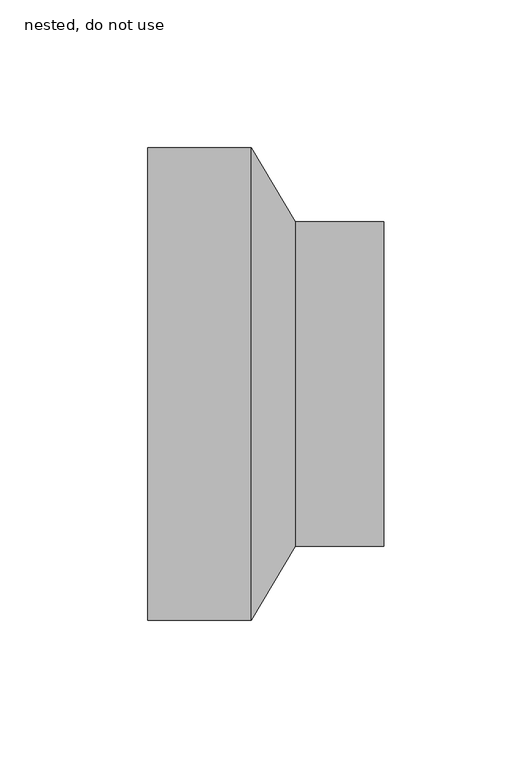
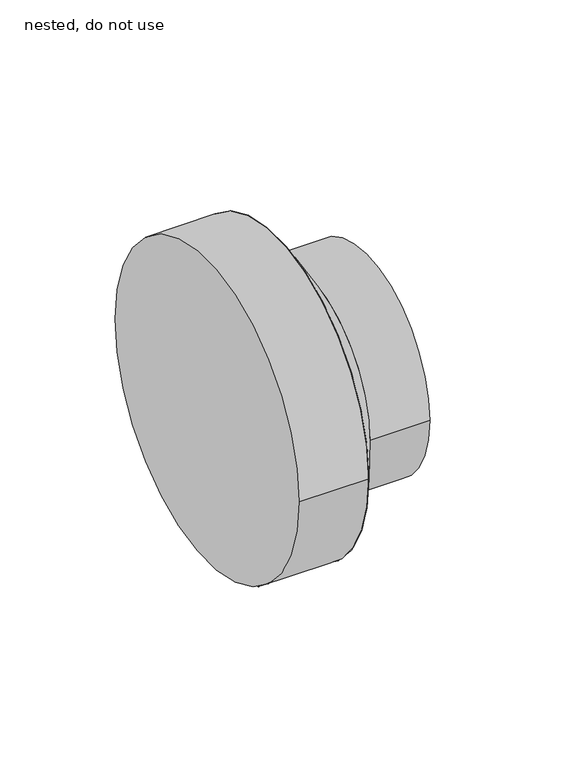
"""IFC4 building model written with IfcOpenShell, lengths in millimetres: pipe fitting geometry, ZZZ_do no use_PIF_HDPE reducer -SH_Akatherm : nested, do not use."""

from ifc_helpers import new_model, si_unit, point, frame, origin, origin_2d, place, context, project, spatial, polyline, circle_curve, trimmed, segment, composite_curve, outline, extrude, source, transform, mapped, element, save
from ifc_brep_helpers import plane_surface, revolved_surface, advanced_brep


def nested_do_not_use_f8d48da3(model_context):
    return source(origin(), model_context, "Body", "SolidModel", [
        advanced_brep(
        [(10.0, -55.0, 0.0), (10.0, 55.0, 0.0), (-5.0, -80.0, 0.0), (-5.0, 80.0, 0.0)],
        [
            (0, 1, circle_curve(frame((10.0, 0.0, 0.0), z_axis=(1.0, -4.739799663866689e-12, 0.0), x_axis=(-4.739752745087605e-12, -1.0, 0.0)), 55.0)),
            (1, 0, circle_curve(frame((10.0, 0.0, 0.0), z_axis=(1.0, -4.739799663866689e-12, 0.0), x_axis=(4.739752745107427e-12, 1.0, 0.0)), 55.0)),
            (2, 3, circle_curve(frame((-5.0, 0.0, 0.0), z_axis=(-1.0, 4.739799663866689e-12, 0.0), x_axis=(4.739752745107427e-12, 1.0, 0.0)), 80.0)),
            (3, 2, circle_curve(frame((-5.0, 0.0, 0.0), z_axis=(-1.0, 4.739799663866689e-12, 0.0), x_axis=(-4.739752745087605e-12, -1.0, 0.0)), 80.0)),
            (3, 1),
            (0, 2),
        ],
        [
            plane_surface(frame((10.0, 0.0, 0.0), z_axis=(1.0, 0.0, 0.0), x_axis=(0.0, 0.0, -1.0))),
            plane_surface(frame((-5.0, 0.0, 0.0), z_axis=(-1.0, 0.0, 0.0), x_axis=(0.0, 0.0, -1.0))),
            revolved_surface(polyline([(10.000000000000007, -54.99999999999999, 0.0), (-5.000000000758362, -80.00000000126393, 0.0)]), (43.0, 0.0, 0.0), (-1.0, 4.739799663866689e-12, 0.0)),
            revolved_surface(polyline([(10.000000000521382, 54.999999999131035, 0.0), (-5.0, 80.0, 0.0)]), (43.0, 0.0, 0.0), (-1.0, 4.739799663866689e-12, 0.0)),
        ],
        [
            (0, [[1, 2]]),
            (1, [[3, 4]]),
            (2, [[-4, 5, -1, 6]]),
            (3, [[-3, -6, -2, -5]]),
        ],
    ),
        extrude(outline(composite_curve([segment(trimmed(circle_curve(origin_2d(), 55.0), [point((-55.0, 0.0))], [point((55.0, 0.0))], False, "CARTESIAN"), True, "CONTINUOUS"), segment(trimmed(circle_curve(origin_2d(), 55.0), [point((55.0, 0.0))], [point((-55.0, 0.0))], False, "CARTESIAN"), True, "CONTINUOUS")], self_intersect=False)), frame((10.0, 0.0, 0.0), z_axis=(1.0, 0.0, 0.0), x_axis=(0.0, 1.0, 0.0)), (0.0, 0.0, 1.0), 30.0),
        extrude(outline(composite_curve([segment(trimmed(circle_curve(origin_2d(), 80.0), [point((-80.0, 0.0))], [point((80.0, 0.0))], False, "CARTESIAN"), True, "CONTINUOUS"), segment(trimmed(circle_curve(origin_2d(), 80.0), [point((80.0, 0.0))], [point((-80.0, 0.0))], False, "CARTESIAN"), True, "CONTINUOUS")], self_intersect=False)), frame((-40.0, 0.0, 0.0), z_axis=(1.0, 0.0, 0.0), x_axis=(0.0, 1.0, 0.0)), (0.0, 0.0, 1.0), 35.0),
    ])


if __name__ == "__main__":
    model = new_model("IFC4")
    model_context = context("Model", 3, world=origin())
    ifc_project = project(units=[si_unit("LENGTHUNIT", "METRE", prefix="MILLI")], contexts=[model_context])
    site = spatial("IfcSite", under=ifc_project)
    building = spatial("IfcBuilding", under=site)
    placement = place(None, origin())
    nested_do_not_use_shape = nested_do_not_use_f8d48da3(model_context)
    element("IfcPipeFitting", 1, ObjectType="ZZZ_do no use_PIF_HDPE reducer -SH_Akatherm : nested, do not use", at=placement, inside=building, context=model_context, shape_type="MappedRepresentation", body=[
        mapped(nested_do_not_use_shape, transform((0.0, 0.0, 0.0), x_axis=(1.0, 0.0, 0.0), y_axis=(0.0, 1.0, 0.0), z_axis=(0.0, 0.0, 1.0))),
    ])
    save(model, "model.ifc")
